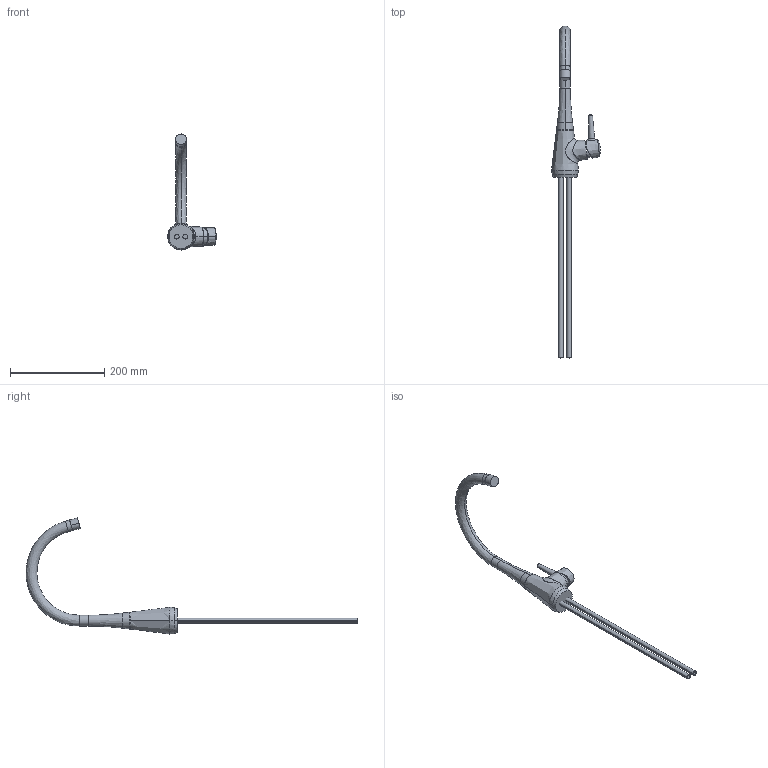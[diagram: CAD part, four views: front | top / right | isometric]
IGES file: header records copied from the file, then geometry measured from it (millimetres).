
Start section:  PTC IGES file: 90077_web.igs
Global section: file name: 90077_web.igs; native system: Creo Parametric by PTC Inc.; preprocessor: 2017380; author: jaj; organization: Unknown; date: 20180703.132506; units: millimetre
Bounding box: 103.65 x 703.18 x 245.98 mm (x, y, z)
Surface area: 113980.1 mm2 (no closed solid volume)
Topology: 0 solids, 0 shells, 49 faces, 320 edges, 372 vertices
Faces by surface type: revolution 40, bspline 9
